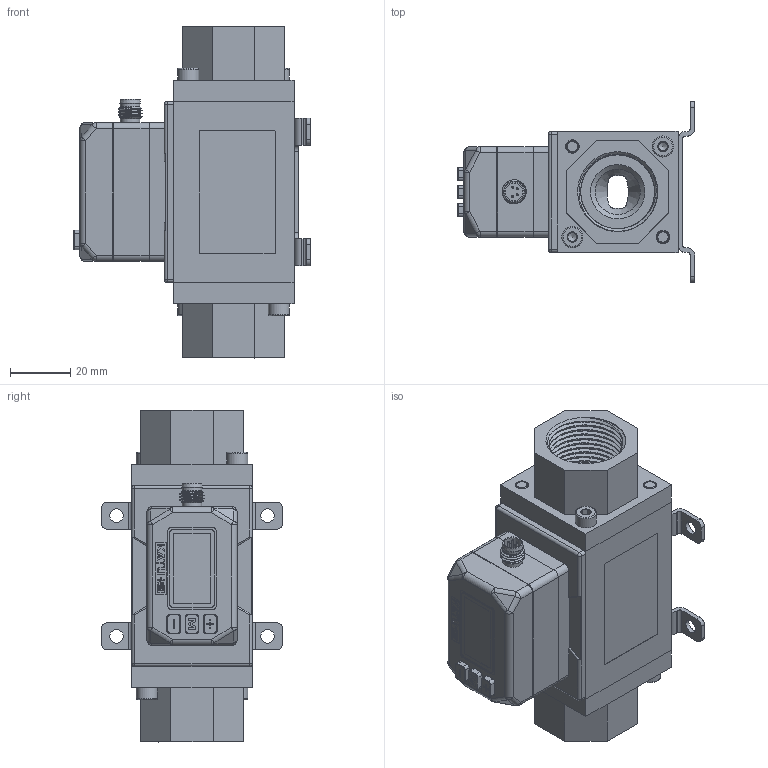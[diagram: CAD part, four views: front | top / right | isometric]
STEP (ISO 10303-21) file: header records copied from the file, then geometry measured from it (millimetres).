
FILE_DESCRIPTION( (''), '2;1');
FILE_NAME( 'QEKJ_30L_R3-4.step', '2026-09-29T16:22:18+08:00', (''), (''), '', '', '');
FILE_SCHEMA (('AUTOMOTIVE_DESIGN { 1 0 10303 214 3 1 1 1 }'));
Length unit declared in the file: millimetre
Products named in the file (1): QEKJ 30L_R3-4
Bounding box: 78.6 x 60 x 110 mm (x, y, z)
Volume: 120608.8 mm3; surface area: 77093.1 mm2
Topology: 11 solids, 12 shells, 1157 faces, 3070 edges, 1975 vertices
Faces by surface type: plane 716, cylinder 279, cone 83, extrusion 26, torus 25, sphere 20, bspline 8
Full cylindrical faces by diameter (mm): 0.6 x4, 1.7 x2, 1.8 x6, 2.05 x4, 2.3 x1, 2.9 x2, 3 x4, 3.3 x4, 3.838 x4, 4.5 x24, 5 x4, 5.8 x1, 6 x1, 6.5 x2, 7 x4, 8 x6, 9.5 x1, 15 x2, 23 x4
Entity records: 44944 total; most frequent: CARTESIAN_POINT 16158, ORIENTED_EDGE 5678, DIRECTION 5517, EDGE_CURVE 2839, VECTOR 2005, LINE 1979, VERTEX_POINT 1908, AXIS2_PLACEMENT_3D 1756
